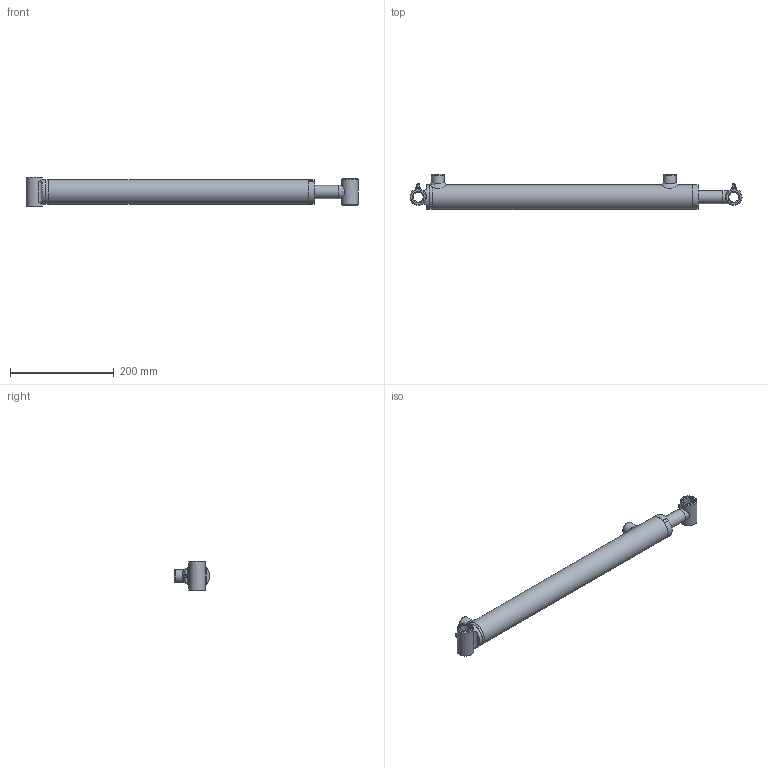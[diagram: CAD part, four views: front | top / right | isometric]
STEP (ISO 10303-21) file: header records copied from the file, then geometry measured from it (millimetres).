
FILE_DESCRIPTION(/* description */ (''),/* implementation_level */ '2;1');
FILE_NAME(/* name */ 'C:\01 - Philip\00 - Philip Rivard\01 - Contracts\Eagle Hydraulic Components\00 - 3D Cylinder\01 - Standard\HBU\HBU15XX\01 - Assembly\HBU1516.stp',/* time_stamp */ '2015-05-06T16:20:51-04:00',/* author */ ('Philip'),/* organization */ (''),/* preprocessor_version */ 'ST-DEVELOPER v16.1',/* originating_system */ 'Autodesk Inventor 2016',/* authorisation */ '');
FILE_SCHEMA (('AUTOMOTIVE_DESIGN { 1 0 10303 214 3 1 1 }'));
Length unit declared in the file: inch
Products named in the file (12): Tube_HBU_Welds; Tube; Straight_Port; ECP-15-HBU; Tube_HBU; Gland; Rod_HBU_Welds; Rod; Bushing; Rod_HBU; Grease Fitting 1-8; Cylinder_Assembly
Assembly tree (13 placements, depth 3):
  Cylinder_Assembly
    Tube_HBU
      Tube_HBU_Welds
      Tube
      Straight_Port  x2
      ECP-15-HBU
    Gland
    Rod_HBU
      Rod_HBU_Welds
      Rod
      Bushing
    Grease Fitting 1-8  x2
Bounding box: 641.35 x 67.62 x 57.2 mm (x, y, z)
Volume: 731596.3 mm3; surface area: 232743.5 mm2
Topology: 12 solids, 12 shells, 206 faces, 457 edges, 278 vertices
Faces by surface type: cone 65, plane 59, cylinder 53, torus 15, bspline 12, sphere 2
Full cylindrical faces by diameter (mm): 4 x2, 5 x1, 7.5 x2, 8 x2, 10 x2, 12.751 x2, 19.05 x2, 19.3 x2, 19.65 x1, 19.9 x1, 22 x1, 25 x4, 25.4 x2, 31.75 x2, 31.8 x1, 35 x1, 37.897 x1, 38.05 x1, 38.1 x1, 40 x1, 42 x2, 43 x1, 47.6 x1, 47.625 x1
Entity records: 6433 total; most frequent: CARTESIAN_POINT 3040, DIRECTION 666, ORIENTED_EDGE 538, AXIS2_PLACEMENT_3D 305, EDGE_LOOP 276, EDGE_CURVE 269, VERTEX_POINT 205, ADVANCED_FACE 166
